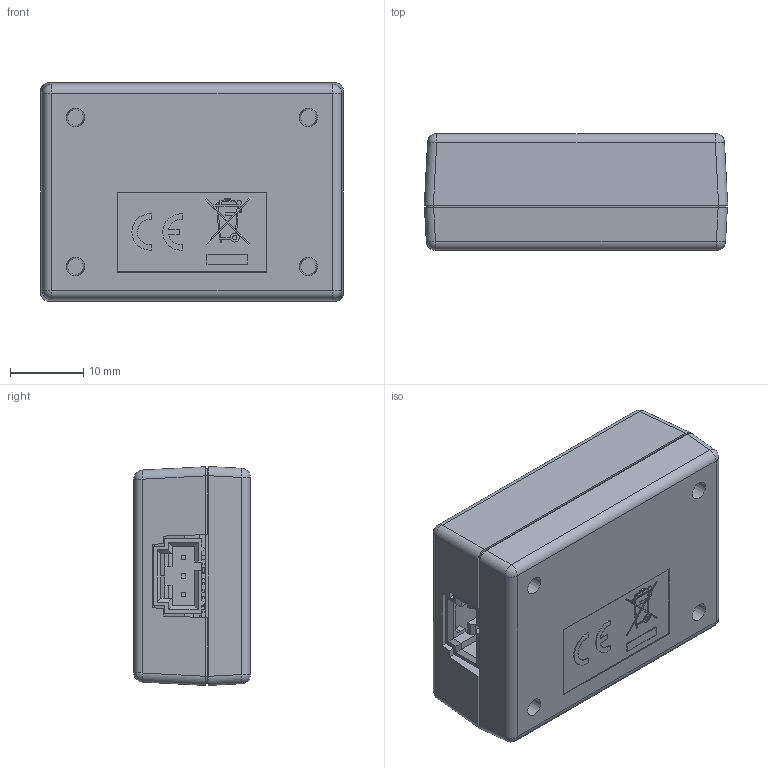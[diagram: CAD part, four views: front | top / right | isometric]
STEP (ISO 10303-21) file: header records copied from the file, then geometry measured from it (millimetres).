
FILE_DESCRIPTION(/* description */ ('Alibre Inc.'),/* implementation_level */ '2;1');
FILE_NAME(/* name */ 'export0',/* time_stamp */ '2018-08-09T13:27:37-06:00',/* author */ (''),/* organization */ (''),/* preprocessor_version */ 'ST-DEVELOPER v17',/* originating_system */ 'Alibre',/* authorisation */ '');
FILE_SCHEMA (('CONFIG_CONTROL_DESIGN'));
Length unit declared in the file: centimetre
Products named in the file (101): ID_1; ID_2; ID_3; ID_4; ID_5; ID_6; ID_7; ID_8; ID_9; ID_10; ID_11; ID_12; ID_13; ID_14; ID_15; ID_16; ID_17; ID_18; ID_19; ID_20; ID_21; ID_22; ID_23; ID_24; ID_25; ID_26; ID_27; ID_28; ID_29; ID_30; ID_31; ID_32; ID_33; ID_34; ID_35; ID_36; ID_37; ID_38; ID_39; ID_40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
Bounding box: 41.36 x 15.86 x 29.84 mm (x, y, z)
Volume: 8940.7 mm3; surface area: 13042.1 mm2
Topology: 145 solids, 145 shells, 3368 faces, 8863 edges, 5839 vertices
Faces by surface type: plane 2614, bspline 443, cylinder 267, cone 20, revolution 16, sphere 8
Full cylindrical faces by diameter (mm): 0.6 x3, 0.965 x3, 1.321 x4, 3.124 x4, 3.175 x4
Entity records: 56606 total; most frequent: CARTESIAN_POINT 11355, ORIENTED_EDGE 7380, DIRECTION 5699, EDGE_CURVE 3690, VECTOR 2843, LINE 2843, VERTEX_POINT 2433, AXIS2_PLACEMENT_3D 1904
